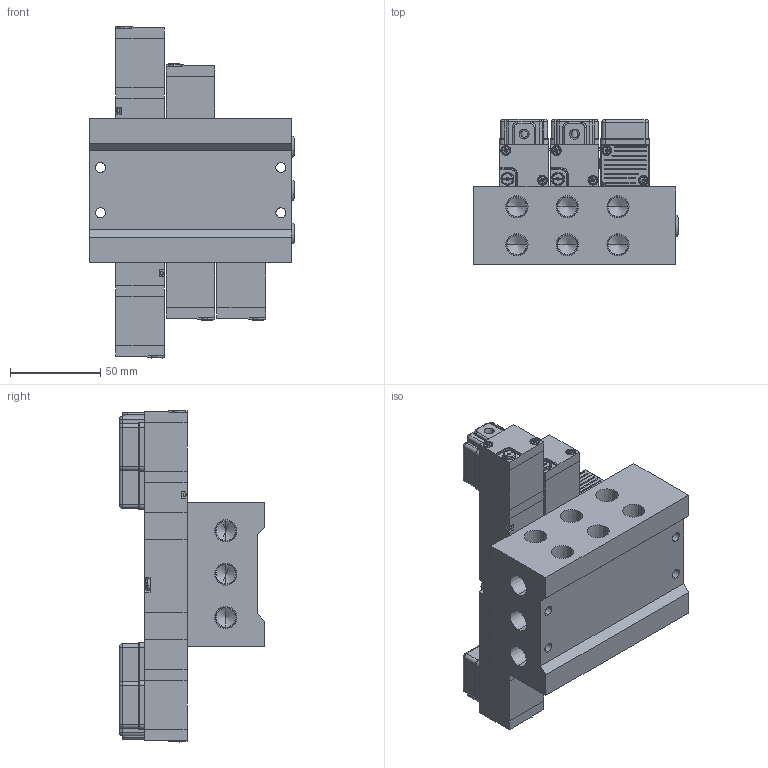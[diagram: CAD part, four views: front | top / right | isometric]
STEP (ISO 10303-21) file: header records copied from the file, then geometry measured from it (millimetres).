
FILE_DESCRIPTION (( 'STEP AP203' ), '1' );
FILE_NAME ('MFS#-PC06-02-G.STEP', '2016-02-04T05:36:09', ( 'Sam Lin' ), ( '' ), 'SwSTEP 2.0', 'SolidWorks 2013', '' );
FILE_SCHEMA (( 'CONFIG_CONTROL_DESIGN' ));
Length unit declared in the file: metre
Products named in the file (16): 承頭; PCS2406-7; MFS#-PC06-02-G; PCS2406-3; PC6-M4; MFS#-PC06-02; PCS2406-8; PCS2406-4; PCS2406-9; PCS2406-5; PC06-MARK; PCS2406-6; PCS2406-10; PC6-M3; PCS2406-11-T=6; PCS2406-3-小圓珠
Assembly tree (69 placements, depth 2):
  MFS#-PC06-02-G
    MFS#-PC06-02
    PCS2406-4  x3
    PCS2406-5  x5
    PCS2406-6
    PC6-M3  x12
    PCS2406-3-小圓珠  x6
    PCS2406-7  x5
    PCS2406-3  x5
    PC6-M4  x11
    PCS2406-8  x5
    PCS2406-9  x5
    PC06-MARK  x3
    PCS2406-10  x2
    PCS2406-11-T=6  x2
    承頭  x3
Bounding box: 113.51 x 80.5 x 184 mm (x, y, z)
Volume: 663502 mm3; surface area: 143577.3 mm2
Topology: 87 solids, 87 shells, 1946 faces, 4749 edges, 2929 vertices
Faces by surface type: plane 1011, cylinder 385, bspline 267, cone 263, torus 20
Entity records: 18590 total; most frequent: CARTESIAN_POINT 4216, DIRECTION 2369, ORIENTED_EDGE 2266, EDGE_CURVE 1133, AXIS2_PLACEMENT_3D 864, VERTEX_POINT 734, VECTOR 641, LINE 641
